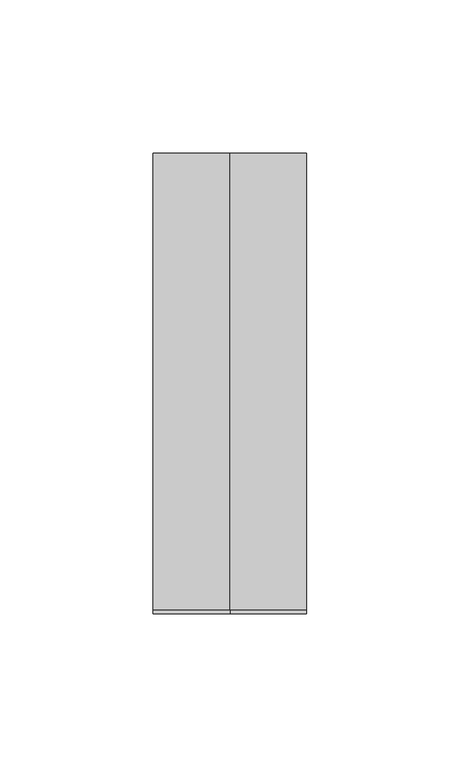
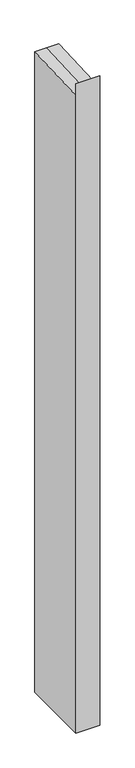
"""IFC4 building model written with IfcOpenShell, lengths in millimetres: member geometry, Прямоугольный импост : 50 x 150 мм."""

from ifc_helpers import new_model, si_unit, origin, place, context, project, spatial, faceted_brep, source, transform, mapped, element, save


def member_7b4bf7b0(model_context):
    return source(origin(), model_context, "Body", "Brep", [
        faceted_brep([(25.0, 75.0, -1425.0), (25.0, -75.0, -1425.0), (-25.0, -75.0, -1425.0), (-25.0, 75.0, -1425.0), (-25.0, 75.0, 3.3563625), (0.0, 75.0, 3.3563625), (25.0, 75.0, 3.3563625), (-25.0, -75.0, 23.3099767), (-25.0, -73.7977635, -3.3529557), (25.0, -75.0, 23.3099767), (0.0, -75.0, 23.3099767), (25.0, -73.7977635, -3.3529557), (0.0, -73.7977635, -3.3529557)], [[[0, 1, 2, 3]], [[4, 5, 6, 0, 3]], [[7, 8, 4, 3, 2]], [[9, 10, 7, 2, 1]], [[6, 11, 9, 1, 0]], [[6, 5, 12, 11]], [[5, 4, 8, 12]], [[8, 7, 10, 12]], [[10, 9, 11, 12]]]),
    ])


if __name__ == "__main__":
    model = new_model("IFC4")
    model_context = context("Model", 3, world=origin())
    ifc_project = project(units=[si_unit("LENGTHUNIT", "METRE", prefix="MILLI")], contexts=[model_context])
    site = spatial("IfcSite", under=ifc_project)
    building = spatial("IfcBuilding", under=site)
    placement = place(None, origin())
    member_shape = member_7b4bf7b0(model_context)
    element("IfcMember", 1, ObjectType="Прямоугольный импост : 50 x 150 мм", at=placement, inside=building, context=model_context, shape_type="MappedRepresentation", body=[
        mapped(member_shape, transform((0.0, 0.0, 0.0), x_axis=(1.0, 0.0, 0.0), y_axis=(0.0, 1.0, 0.0), z_axis=(0.0, 0.0, 1.0))),
    ])
    save(model, "model.ifc")
